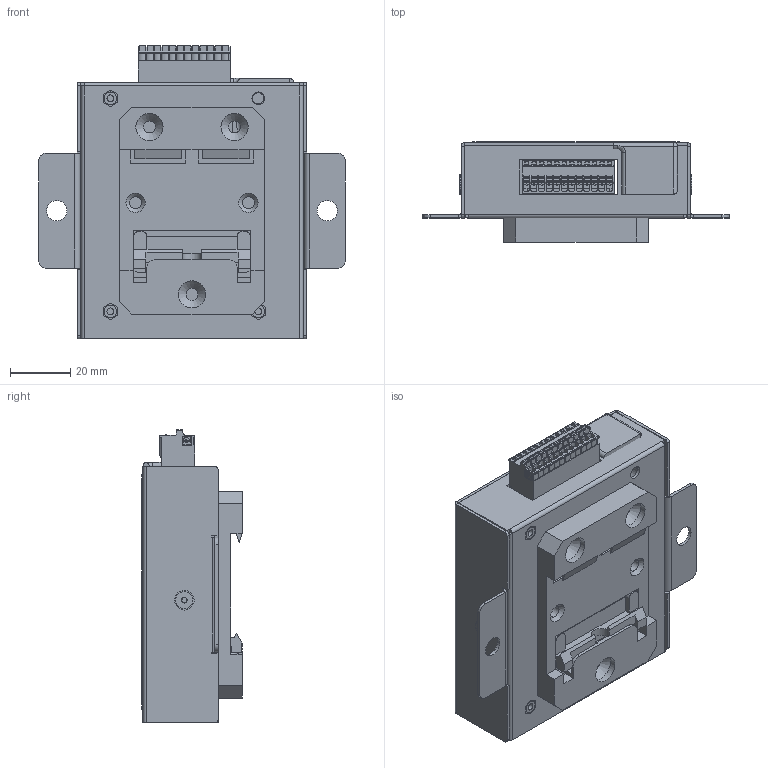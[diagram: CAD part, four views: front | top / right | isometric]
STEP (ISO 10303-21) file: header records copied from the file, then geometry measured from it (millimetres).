
FILE_DESCRIPTION (( 'STEP AP214' ), '1' );
FILE_NAME ('Scan Sync Device Assembly.STEP', '2021-09-08T19:06:52', ( '' ), ( '' ), 'SwSTEP 2.0', 'SolidWorks 2016', '' );
FILE_SCHEMA (( 'AUTOMOTIVE_DESIGN' ));
Length unit declared in the file: inch
Products named in the file (13): Part1^Scan Sync Device Assembly; Scan Sync top sheetmetal; Spring clip2015-11-27; 91253A108_ALLOY STEEL FLAT-HEAD SOCKET CAP SCREW_91253A108; pxc_1881422_06_FK-MC-0-5-12-ST-2-5_3D; dinm15v2-rc; Scan Sync bottom sheetmetal; Springs^DINM15V2-RC-Assy; Scan Sync Device Assembly; DINM15V2-RC-clip; Jig to solder leds to scansync; thin sheet standoff_pmi_PEM TSO-440-250 ZI--N; ScanSync Decal
Assembly tree (15 placements, depth 3):
  Part1^Scan Sync Device Assembly
  Scan Sync Device Assembly
    Scan Sync bottom sheetmetal
    thin sheet standoff_pmi_PEM TSO-440-250 ZI--N  x3
    Scan Sync top sheetmetal
    dinm15v2-rc
      DINM15V2-RC-clip
      Spring clip2015-11-27
      Springs^DINM15V2-RC-Assy  x2
    ScanSync Decal
    91253A108_ALLOY STEEL FLAT-HEAD SOCKET CAP SCREW_91253A108  x2
    pxc_1881422_06_FK-MC-0-5-12-ST-2-5_3D
    Jig to solder leds to scansync
Bounding box: 101.6 x 33.27 x 97.35 mm (x, y, z)
Volume: 45553.3 mm3; surface area: 76316.2 mm2
Topology: 13 solids, 26 shells, 1210 faces, 3253 edges, 2120 vertices
Faces by surface type: plane 815, cylinder 337, cone 47, bspline 7, torus 3, sphere 1
Full cylindrical faces by diameter (mm): 0.457 x1, 1.6 x11, 2.261 x3, 2.85 x3, 3.734 x1, 3.772 x3, 4 x5, 4.191 x6, 4.216 x9, 5.08 x10, 6.477 x2, 6.756 x2, 6.858 x2, 9 x3
Entity records: 53297 total; most frequent: CARTESIAN_POINT 11649, DIRECTION 5933, ORIENTED_EDGE 5794, EDGE_CURVE 3025, VECTOR 2279, LINE 2279, VERTEX_POINT 2011, AXIS2_PLACEMENT_3D 1827
